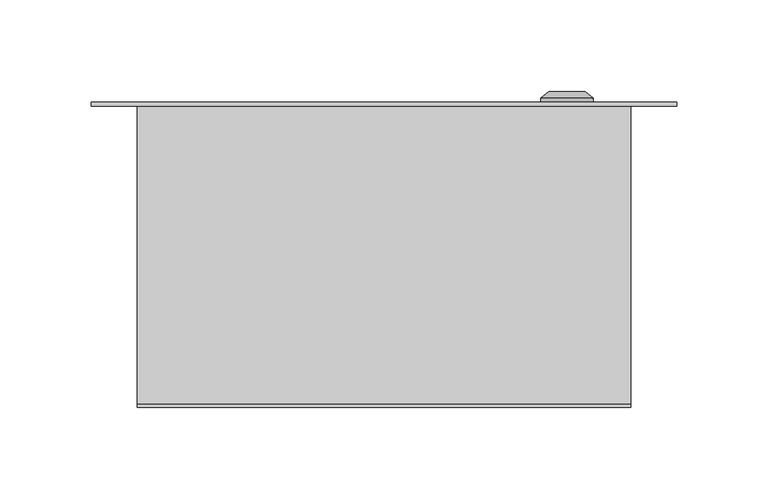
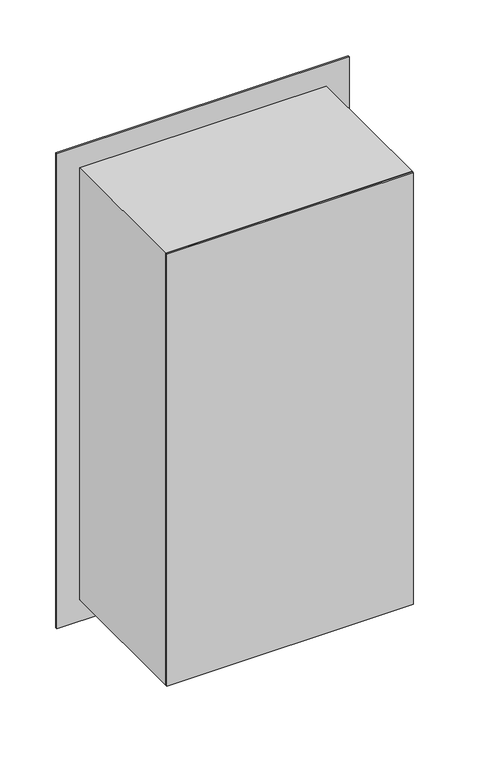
"""IFC4 building model written with IfcOpenShell, lengths in millimetres: proxy geometry, ЩУРВ-3_12 : ЩУРВ-3/12."""

from ifc_helpers import new_model, si_unit, point, frame, frame_2d, origin, place, context, project, spatial, polyline, circle_curve, trimmed, segment, composite_curve, outline, extrude, source, transform, mapped, element, save
from ifc_brep_helpers import plane_surface, cylinder_surface, revolved_surface, advanced_brep


def electrical_equipment_00db5d83(model_context):
    return source(origin(), model_context, "Body", "SolidModel", [
        extrude(outline(composite_curve([segment(trimmed(circle_curve(frame_2d((433.0, -70.0)), 10.0), [point((443.0, -70.0))], [point((433.0, -80.0))], False, "CARTESIAN"), True, "CONTINUOUS"), segment(polyline([(433.0, -80.0), (378.0, -80.0)]), True, "CONTINUOUS"), segment(trimmed(circle_curve(frame_2d((378.0, -70.0)), 10.0), [point((378.0, -80.0))], [point((368.0, -70.0))], False, "CARTESIAN"), True, "CONTINUOUS"), segment(polyline([(368.0, -70.0), (368.0, 10.0)]), True, "CONTINUOUS"), segment(trimmed(circle_curve(frame_2d((378.0, 10.0)), 10.0), [point((368.0, 10.0))], [point((378.0, 20.0))], False, "CARTESIAN"), True, "CONTINUOUS"), segment(polyline([(378.0, 20.0), (433.0, 20.0)]), True, "CONTINUOUS"), segment(trimmed(circle_curve(frame_2d((433.0, 10.0)), 10.0), [point((433.0, 20.0))], [point((443.0, 10.0))], False, "CARTESIAN"), True, "CONTINUOUS"), segment(polyline([(443.0, 10.0), (443.0, -70.0)]), True, "CONTINUOUS")], self_intersect=False)), frame((0.0, 0.0, 0.0), z_axis=(0.0, 1.0, 0.0), x_axis=(0.0, 0.0, 1.0)), (0.0, 0.0, 1.0), 2.0),
        extrude(outline(polyline([(550.0, -160.0), (0.0, -160.0), (0.0, 160.0), (550.0, 160.0), (550.0, -160.0)]), holes=[polyline([(525.0, -135.0), (525.0, 134.9966095), (25.0, 134.9966095), (25.0, -135.0), (525.0, -135.0)])]), frame((0.0, 0.0, 0.0), z_axis=(0.0, 1.0, 0.0), x_axis=(0.0, 0.0, 1.0)), (0.0, 0.0, 1.0), 2.0),
        advanced_brep(
        [(85.669873, 2.0, 275.0), (114.330127, 2.0, 275.0), (100.0, 2.0, 275.0), (85.669873, 4.366592, 275.0), (114.330127, 4.366592, 275.0), (90.0, 8.0, 275.0), (110.0, 8.0, 275.0), (98.1080471, 8.0, 275.0), (101.8919529, 8.0, 275.0), (98.1080471, 6.9822294, 275.0), (101.8919529, 6.9822294, 275.0), (100.0, 6.9822294, 275.0)],
        [
            (0, 1, circle_curve(frame((100.0, 2.0, 275.0), z_axis=(0.0, -1.0, 0.0), x_axis=(1.0, 0.0, 0.0)), 14.330127)),
            (1, 2),
            (2, 0),
            (1, 0, circle_curve(frame((100.0, 2.0, 275.0), z_axis=(0.0, -1.0, 0.0), x_axis=(1.0, 0.0, 0.0)), 14.330127)),
            (3, 4, circle_curve(frame((100.0, 4.366592, 275.0), z_axis=(0.0, -1.0, 0.0), x_axis=(1.0, 0.0, 0.0)), 14.330127)),
            (4, 1),
            (0, 3),
            (4, 3, circle_curve(frame((100.0, 4.366592, 275.0), z_axis=(0.0, -1.0, 0.0), x_axis=(1.0, 0.0, 0.0)), 14.330127)),
            (5, 6, circle_curve(frame((100.0, 8.0, 275.0), z_axis=(0.0, -1.0, 0.0), x_axis=(1.0, 0.0, 0.0)), 10.0)),
            (6, 4),
            (3, 5),
            (6, 5, circle_curve(frame((100.0, 8.0, 275.0), z_axis=(0.0, -1.0, 0.0), x_axis=(1.0, 0.0, 0.0)), 10.0)),
            (7, 8, circle_curve(frame((100.0, 8.0, 275.0), z_axis=(0.0, -1.0, 0.0), x_axis=(1.0, 0.0, 0.0)), 1.8919529)),
            (8, 6),
            (5, 7),
            (8, 7, circle_curve(frame((100.0, 8.0, 275.0), z_axis=(0.0, -1.0, 0.0), x_axis=(1.0, 0.0, 0.0)), 1.8919529)),
            (9, 10, circle_curve(frame((100.0, 6.9822294, 275.0), z_axis=(0.0, -1.0, 0.0), x_axis=(1.0, 0.0, 0.0)), 1.8919529)),
            (10, 8),
            (7, 9),
            (10, 9, circle_curve(frame((100.0, 6.9822294, 275.0), z_axis=(0.0, -1.0, 0.0), x_axis=(1.0, 0.0, 0.0)), 1.8919529)),
            (11, 10),
            (9, 11),
        ],
        [
            plane_surface(frame((100.0, 2.0, 275.0), z_axis=(0.0, -1.0, 0.0), x_axis=(1.0, 0.0, 0.0))),
            cylinder_surface(frame((100.0, 15.1348851, 275.0), z_axis=(0.0, 1.0, 0.0), x_axis=(1.0, 0.0, 0.0)), 14.330127),
            revolved_surface(polyline([(114.330127, 4.366592, 275.0), (110.0, 8.0, 275.0)]), (100.0, 15.1348851, 275.0), (0.0, 1.0, 0.0)),
            plane_surface(frame((100.0, 8.0, 275.0), z_axis=(0.0, 1.0, 0.0), x_axis=(1.0, 0.0, 0.0))),
            revolved_surface(polyline([(101.8919529, 8.0, 275.0), (101.8919529, 6.9822294, 275.0)]), (100.0, 15.1348851, 275.0), (0.0, 1.0, 0.0)),
            plane_surface(frame((100.0, 6.9822294, 275.0), z_axis=(0.0, 1.0, 0.0), x_axis=(1.0, 0.0, 0.0))),
        ],
        [
            (0, [[1, 2, 3]]),
            (0, [[4, -3, -2]]),
            (1, [[5, 6, -1, 7]]),
            (1, [[8, -7, -4, -6]]),
            (2, [[9, 10, -5, 11]]),
            (2, [[12, -11, -8, -10]]),
            (3, [[13, 14, -9, 15]]),
            (3, [[16, -15, -12, -14]]),
            (4, [[17, 18, -13, 19]]),
            (4, [[20, -19, -16, -18]]),
            (5, [[21, -17, 22]]),
            (5, [[-22, -20, -21]]),
        ],
    ),
        extrude(outline(polyline([(523.0, -133.0033905), (27.0, -133.0033905), (27.0, 132.9966095), (523.0, 132.9966095), (523.0, -133.0033905)]), holes=[composite_curve([segment(polyline([(443.0, -70.0), (443.0, 10.0)]), True, "CONTINUOUS"), segment(trimmed(circle_curve(frame_2d((433.0, 10.0)), 10.0), [point((443.0, 10.0))], [point((433.0, 20.0))], True, "CARTESIAN"), True, "CONTINUOUS"), segment(polyline([(433.0, 20.0), (378.0, 20.0)]), True, "CONTINUOUS"), segment(trimmed(circle_curve(frame_2d((378.0, 10.0)), 10.0), [point((378.0, 20.0))], [point((368.0, 10.0))], True, "CARTESIAN"), True, "CONTINUOUS"), segment(polyline([(368.0, 10.0), (368.0, -70.0)]), True, "CONTINUOUS"), segment(trimmed(circle_curve(frame_2d((378.0, -70.0)), 10.0), [point((368.0, -70.0))], [point((378.0, -80.0))], True, "CARTESIAN"), True, "CONTINUOUS"), segment(polyline([(378.0, -80.0), (433.0, -80.0)]), True, "CONTINUOUS"), segment(trimmed(circle_curve(frame_2d((433.0, -70.0)), 10.0), [point((433.0, -80.0))], [point((443.0, -70.0))], True, "CARTESIAN"), True, "CONTINUOUS")], self_intersect=False)]), frame((0.0, 0.0, 0.0), z_axis=(0.0, 1.0, 0.0), x_axis=(0.0, 0.0, 1.0)), (0.0, 0.0, 1.0), 2.0),
        extrude(outline(polyline([(525.0, -135.0033905), (25.0, -135.0033905), (25.0, 134.9966095), (525.0, 134.9966095), (525.0, -135.0033905)]), holes=[polyline([(524.0, -134.0033905), (524.0, 133.9966095), (26.0, 133.9966095), (26.0, -134.0033905), (524.0, -134.0033905)])]), frame((0.0, -163.0, 0.0), z_axis=(0.0, 1.0, 0.0), x_axis=(0.0, 0.0, 1.0)), (0.0, 0.0, 1.0), 163.0),
        extrude(outline(polyline([(135.0, -165.0), (-135.0, -165.0), (-135.0, -163.0), (135.0, -163.0), (135.0, -165.0)])), frame((0.0, 0.0, 25.0), z_axis=(0.0, 0.0, 1.0), x_axis=(1.0, 0.0, 0.0)), (0.0, 0.0, 1.0), 500.0),
    ])


if __name__ == "__main__":
    model = new_model("IFC4")
    model_context = context("Model", 3, world=origin())
    ifc_project = project(units=[si_unit("LENGTHUNIT", "METRE", prefix="MILLI")], contexts=[model_context])
    site = spatial("IfcSite", under=ifc_project)
    building = spatial("IfcBuilding", under=site)
    placement = place(None, origin())
    electrical_equipment_shape = electrical_equipment_00db5d83(model_context)
    element("IfcBuildingElementProxy", 1, Name="ЩУРВ-3_12 : ЩУРВ-3/12", ObjectType="ЩУРВ-3_12 : ЩУРВ-3/12", at=placement, inside=building, context=model_context, shape_type="MappedRepresentation", body=[
        mapped(electrical_equipment_shape, transform((0.0, 0.0, 0.0), x_axis=(1.0, 0.0, 0.0), y_axis=(0.0, 1.0, 0.0), z_axis=(0.0, 0.0, 1.0))),
    ])
    save(model, "model.ifc")
